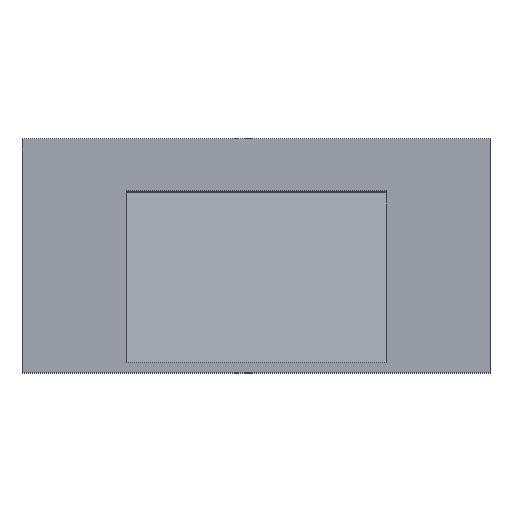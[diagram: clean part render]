
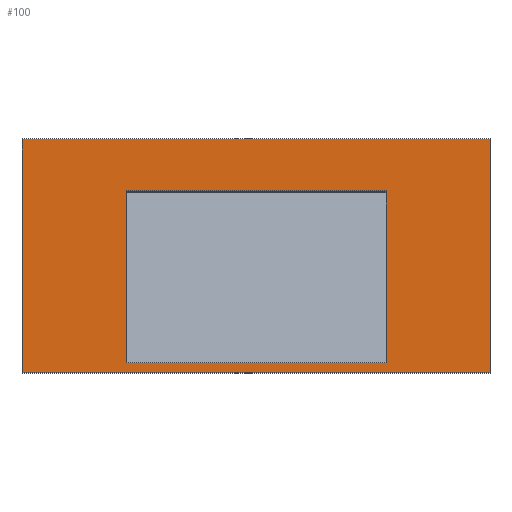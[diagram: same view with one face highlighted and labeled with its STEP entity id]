
A CAD part, top view. The second image highlights one B-rep face of the part: STEP entity #100.
In plain terms, the highlighted planar face has unit normal (0, 0, 1).
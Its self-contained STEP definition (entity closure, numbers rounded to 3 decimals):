
#47=FACE_BOUND('',#223,.T.);
#48=FACE_BOUND('',#224,.T.);
#100=ADVANCED_FACE('',(#47,#48),#145,.F.);
#145=PLANE('',#883);
#223=EDGE_LOOP('',(#365,#366,#367,#368));
#224=EDGE_LOOP('',(#369,#370,#371,#372));
#365=ORIENTED_EDGE('',*,*,#608,.F.);
#366=ORIENTED_EDGE('',*,*,#645,.F.);
#367=ORIENTED_EDGE('',*,*,#643,.T.);
#368=ORIENTED_EDGE('',*,*,#646,.T.);
#369=ORIENTED_EDGE('',*,*,#647,.T.);
#370=ORIENTED_EDGE('',*,*,#606,.T.);
#371=ORIENTED_EDGE('',*,*,#581,.F.);
#372=ORIENTED_EDGE('',*,*,#648,.F.);
#503=VERTEX_POINT('',#1197);
#504=VERTEX_POINT('',#1199);
#524=VERTEX_POINT('',#1248);
#525=VERTEX_POINT('',#1252);
#526=VERTEX_POINT('',#1253);
#548=VERTEX_POINT('',#1350);
#549=VERTEX_POINT('',#1352);
#550=VERTEX_POINT('',#1358);
#581=EDGE_CURVE('',#503,#504,#691,.T.);
#606=EDGE_CURVE('',#524,#504,#712,.T.);
#608=EDGE_CURVE('',#525,#526,#714,.T.);
#643=EDGE_CURVE('',#549,#548,#740,.T.);
#645=EDGE_CURVE('',#549,#525,#742,.T.);
#646=EDGE_CURVE('',#548,#526,#743,.T.);
#647=EDGE_CURVE('',#550,#524,#744,.T.);
#648=EDGE_CURVE('',#550,#503,#745,.T.);
#691=LINE('',#1198,#783);
#712=LINE('',#1247,#804);
#714=LINE('',#1251,#806);
#740=LINE('',#1351,#832);
#742=LINE('',#1355,#834);
#743=LINE('',#1356,#835);
#744=LINE('',#1357,#836);
#745=LINE('',#1359,#837);
#783=VECTOR('',#947,1.);
#804=VECTOR('',#984,1.);
#806=VECTOR('',#988,1.);
#832=VECTOR('',#1042,1.);
#834=VECTOR('',#1046,1.);
#835=VECTOR('',#1047,1.);
#836=VECTOR('',#1048,1.);
#837=VECTOR('',#1049,1.);
#883=AXIS2_PLACEMENT_3D('',#1360,#1050,#1051);
#947=DIRECTION('',(0.,-1.,0.));
#984=DIRECTION('',(-1.,0.,0.));
#988=DIRECTION('',(-1.,0.,0.));
#1042=DIRECTION('',(-1.,0.,0.));
#1046=DIRECTION('',(0.,-1.,0.));
#1047=DIRECTION('',(0.,-1.,0.));
#1048=DIRECTION('',(0.,-1.,0.));
#1049=DIRECTION('',(-1.,0.,0.));
#1050=DIRECTION('',(0.,0.,-1.));
#1051=DIRECTION('',(-1.,0.,0.));
#1197=CARTESIAN_POINT('',(-250.,28.,0.));
#1198=CARTESIAN_POINT('',(-250.,128.,0.));
#1199=CARTESIAN_POINT('',(-250.,-302.,0.));
#1247=CARTESIAN_POINT('',(250.,-302.,0.));
#1248=CARTESIAN_POINT('',(250.,-302.,0.));
#1251=CARTESIAN_POINT('',(250.,-322.,0.));
#1252=CARTESIAN_POINT('',(450.,-322.,0.));
#1253=CARTESIAN_POINT('',(-450.,-322.,0.));
#1350=CARTESIAN_POINT('',(-450.,128.,0.));
#1351=CARTESIAN_POINT('',(250.,128.,0.));
#1352=CARTESIAN_POINT('',(450.,128.,0.));
#1355=CARTESIAN_POINT('',(450.,128.,0.));
#1356=CARTESIAN_POINT('',(-450.,128.,0.));
#1357=CARTESIAN_POINT('',(250.,128.,0.));
#1358=CARTESIAN_POINT('',(250.,28.,0.));
#1359=CARTESIAN_POINT('',(250.,28.,0.));
#1360=CARTESIAN_POINT('',(250.,128.,0.));
